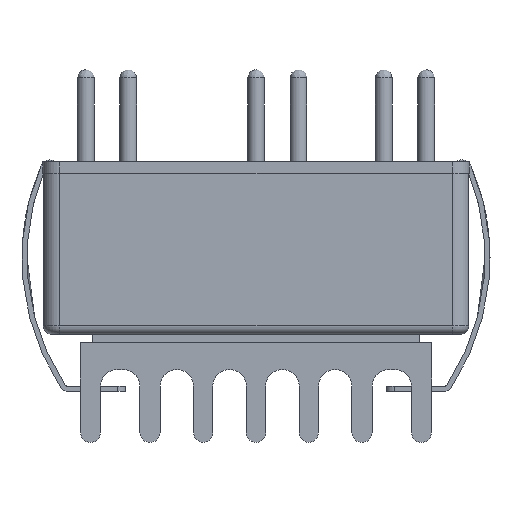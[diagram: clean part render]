
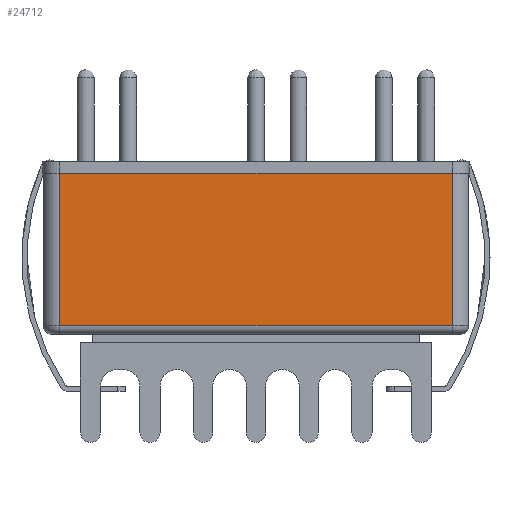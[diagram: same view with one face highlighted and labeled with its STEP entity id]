
A CAD part, left-side view. The second image highlights one B-rep face of the part: STEP entity #24712.
In plain terms, the highlighted planar face has unit normal (-1, 0, 0).
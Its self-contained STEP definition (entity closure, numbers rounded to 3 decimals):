
#702 = FACE_OUTER_BOUND ( 'NONE', #12422, .T. ) ;
#2623 = CARTESIAN_POINT ( 'NONE',  ( -25.45, -11.7, 0. ) ) ;
#3727 = VECTOR ( 'NONE', #22508, 1000. ) ;
#11155 = DIRECTION ( 'NONE',  ( -1., 0., 0. ) ) ;
#12010 = CARTESIAN_POINT ( 'NONE',  ( -25.45, 11.7, 0.5 ) ) ;
#12422 = EDGE_LOOP ( 'NONE', ( #13205, #33434, #19486, #15374 ) ) ;
#12648 = VERTEX_POINT ( 'NONE', #37033 ) ;
#13205 = ORIENTED_EDGE ( 'NONE', *, *, #27533, .T. ) ;
#13633 = LINE ( 'NONE', #18860, #3727 ) ;
#14300 = EDGE_CURVE ( 'NONE', #24230, #43033, #37803, .T. ) ;
#14529 = EDGE_CURVE ( 'NONE', #15471, #12648, #13633, .T. ) ;
#15374 = ORIENTED_EDGE ( 'NONE', *, *, #14529, .T. ) ;
#15471 = VERTEX_POINT ( 'NONE', #32871 ) ;
#18860 = CARTESIAN_POINT ( 'NONE',  ( -25.45, 0., 9.6 ) ) ;
#19486 = ORIENTED_EDGE ( 'NONE', *, *, #46138, .T. ) ;
#21680 = CARTESIAN_POINT ( 'NONE',  ( -25.45, -11.7, 0.5 ) ) ;
#22508 = DIRECTION ( 'NONE',  ( 0., 1., 0. ) ) ;
#23086 = LINE ( 'NONE', #27891, #41423 ) ;
#24230 = VERTEX_POINT ( 'NONE', #12010 ) ;
#24623 = CARTESIAN_POINT ( 'NONE',  ( -25.45, -12.7, 0.5 ) ) ;
#24712 = ADVANCED_FACE ( 'NONE', ( #702 ), #40360, .T. ) ;
#27533 = EDGE_CURVE ( 'NONE', #12648, #24230, #23086, .T. ) ;
#27891 = CARTESIAN_POINT ( 'NONE',  ( -25.45, 11.7, 0. ) ) ;
#28969 = LINE ( 'NONE', #2623, #36429 ) ;
#32173 = DIRECTION ( 'NONE',  ( 0., 0., 1. ) ) ;
#32871 = CARTESIAN_POINT ( 'NONE',  ( -25.45, -11.7, 9.6 ) ) ;
#33155 = CARTESIAN_POINT ( 'NONE',  ( -25.45, -12.7, 0. ) ) ;
#33434 = ORIENTED_EDGE ( 'NONE', *, *, #14300, .T. ) ;
#36429 = VECTOR ( 'NONE', #32173, 1000. ) ;
#36731 = AXIS2_PLACEMENT_3D ( 'NONE', #33155, #11155, #36842 ) ;
#36842 = DIRECTION ( 'NONE',  ( 0., 0., 1. ) ) ;
#37033 = CARTESIAN_POINT ( 'NONE',  ( -25.45, 11.7, 9.6 ) ) ;
#37803 = LINE ( 'NONE', #24623, #46377 ) ;
#39128 = DIRECTION ( 'NONE',  ( 0., 0., -1. ) ) ;
#39384 = DIRECTION ( 'NONE',  ( 0., -1., 0. ) ) ;
#40360 = PLANE ( 'NONE',  #36731 ) ;
#41423 = VECTOR ( 'NONE', #39128, 1000. ) ;
#43033 = VERTEX_POINT ( 'NONE', #21680 ) ;
#46138 = EDGE_CURVE ( 'NONE', #43033, #15471, #28969, .T. ) ;
#46377 = VECTOR ( 'NONE', #39384, 1000. ) ;
